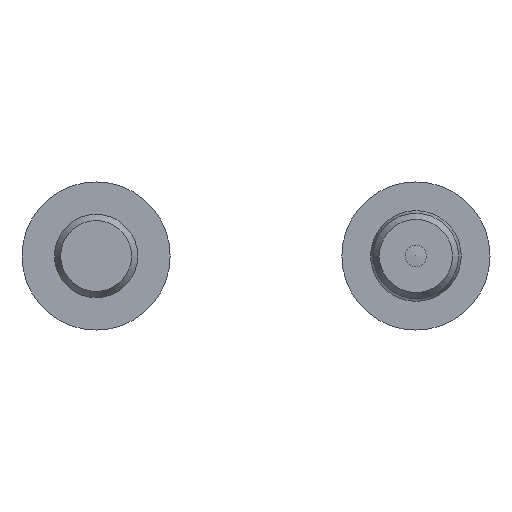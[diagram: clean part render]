
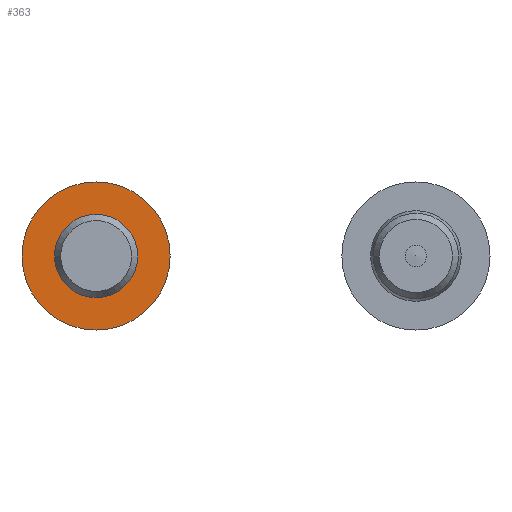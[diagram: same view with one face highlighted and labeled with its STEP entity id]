
A CAD part, front view. The second image highlights one B-rep face of the part: STEP entity #363.
In plain terms, the highlighted planar face has unit normal (0, -1, 0).
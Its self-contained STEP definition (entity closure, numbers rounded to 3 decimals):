
#363 = ADVANCED_FACE( '', ( #514, #515 ), #516, .F. );
#514 = FACE_BOUND( '', #678, .T. );
#515 = FACE_OUTER_BOUND( '', #679, .T. );
#516 = PLANE( '', #680 );
#678 = EDGE_LOOP( '', ( #935 ) );
#679 = EDGE_LOOP( '', ( #936 ) );
#680 = AXIS2_PLACEMENT_3D( '', #937, #938, #939 );
#935 = ORIENTED_EDGE( '', *, *, #1021, .F. );
#936 = ORIENTED_EDGE( '', *, *, #1022, .T. );
#937 = CARTESIAN_POINT( '', ( 6.95, 6., 0. ) );
#938 = DIRECTION( '', ( 0., 1., 0. ) );
#939 = DIRECTION( '', ( 0., 0., 1. ) );
#1021 = EDGE_CURVE( '', #1121, #1121, #1122, .T. );
#1022 = EDGE_CURVE( '', #1123, #1123, #1124, .T. );
#1121 = VERTEX_POINT( '', #1225 );
#1122 = CIRCLE( '', #1226, 3.9 );
#1123 = VERTEX_POINT( '', #1227 );
#1124 = CIRCLE( '', #1228, 6.95 );
#1225 = CARTESIAN_POINT( '', ( 0., 6., -3.9 ) );
#1226 = AXIS2_PLACEMENT_3D( '', #1375, #1376, #1377 );
#1227 = CARTESIAN_POINT( '', ( 0., 6., -6.95 ) );
#1228 = AXIS2_PLACEMENT_3D( '', #1378, #1379, #1380 );
#1375 = CARTESIAN_POINT( '', ( 0., 6., 0. ) );
#1376 = DIRECTION( '', ( 0., -1., 0. ) );
#1377 = DIRECTION( '', ( 0., 0., -1. ) );
#1378 = CARTESIAN_POINT( '', ( 0., 6., 0. ) );
#1379 = DIRECTION( '', ( 0., -1., 0. ) );
#1380 = DIRECTION( '', ( 0., 0., -1. ) );
